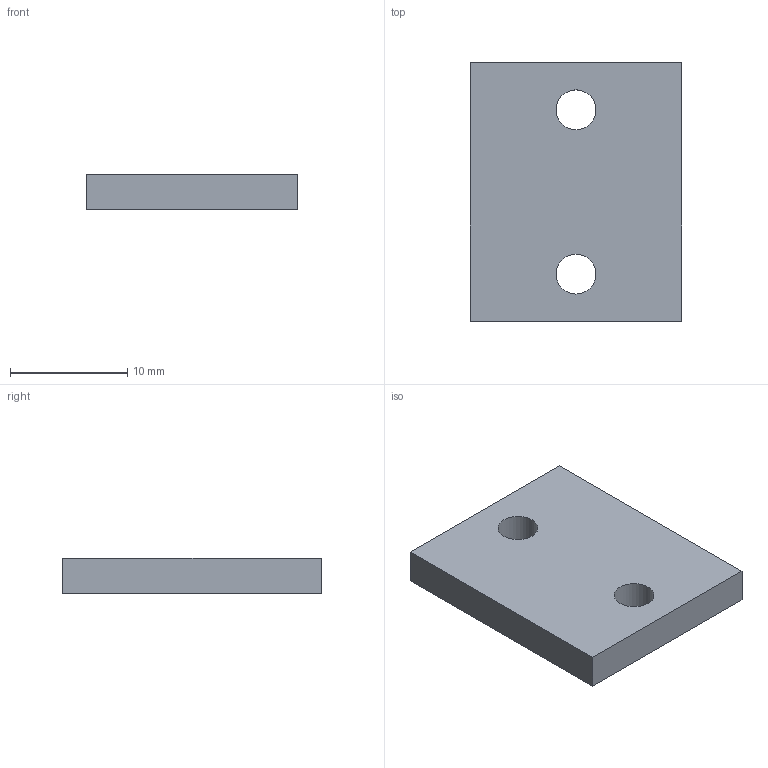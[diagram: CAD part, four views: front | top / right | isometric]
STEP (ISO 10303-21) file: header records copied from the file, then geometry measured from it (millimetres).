
FILE_DESCRIPTION(('Open CASCADE Model'),'2;1');
FILE_NAME('Open CASCADE Shape Model','2026-10-23T08:22:11',('Author'),( 'Open CASCADE'),'Open CASCADE STEP processor 7.9','Open CASCADE 7.9' ,'Unknown');
FILE_SCHEMA(('AUTOMOTIVE_DESIGN { 1 0 10303 214 1 1 1 1 }'));
Length unit declared in the file: millimetre
Products named in the file (1): Open CASCADE STEP translator 7.9 7
Bounding box: 18 x 22 x 3 mm (x, y, z)
Volume: 1133.5 mm3; surface area: 1059.8 mm2
Topology: 1 solids, 1 shells, 8 faces, 18 edges, 12 vertices
Faces by surface type: plane 6, cylinder 2
Full cylindrical faces by diameter (mm): 3.4 x2
Entity records: 478 total; most frequent: DIRECTION 76, CARTESIAN_POINT 75, LINE 46, VECTOR 46, ORIENTED_EDGE 36, PCURVE 36, DEFINITIONAL_REPRESENTATION 36, EDGE_CURVE 18
